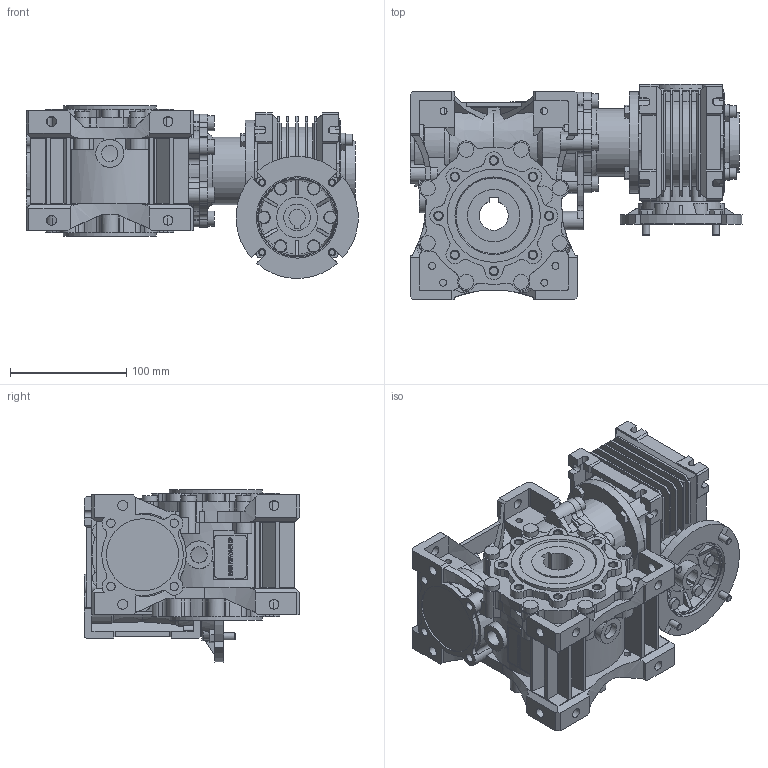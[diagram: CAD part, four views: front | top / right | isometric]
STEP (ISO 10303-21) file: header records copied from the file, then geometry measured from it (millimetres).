
FILE_DESCRIPTION(/* description */ ('STEP AP214'),/* implementation_level */ '2;1');
FILE_NAME(/* name */ 'NMRVP-NMRVP 040-063 100 (10x10) PS2 105x14 18 NO 25 NO NO - - NO - - - NO NO - --(--------)',/* time_stamp */ '2024-10-23T11:12:40+02:00',/* author */ ('License CC BY-ND 4.0'),/* organization */ ('CADENAS'),/* preprocessor_version */ 'ST-DEVELOPER v19.3',/* originating_system */ 'PARTsolutions',/* authorisation */ ' ');
FILE_SCHEMA (('AUTOMOTIVE_DESIGN {1 0 10303 214 3 1 1}'));
Products named in the file (11): NMRVP-NMRVP 040-063 100 (10x10) PS2 105x14 18 NO 25 NO NO - - NO - - 
- NO NO - --(--------); W.063.01.M; 063-25 (112); W.063.14.19.M-p; 040-063-TRA; W.040.01.M; 040-18 (78); VB 040-14 (14)-p; 4071 B14; Corona 40-p; 63-45
Assembly tree (10 placements, depth 2):
  NMRVP-NMRVP 040-063 100 (10x10) PS2 105x14 18 NO 25 NO NO - - NO - - 
- NO NO - --(--------)
    W.063.01.M
    063-25 (112)
    W.063.14.19.M-p
    040-063-TRA
    W.040.01.M
    040-18 (78)
    VB 040-14 (14)-p
    4071 B14
    Corona 40-p
    63-45
Bounding box: 285.33 x 185 x 148.33 mm (x, y, z)
Volume: 2669319.5 mm3; surface area: 482988.4 mm2
Topology: 10 solids, 14 shells, 2279 faces, 6203 edges, 4073 vertices
Faces by surface type: plane 1427, cylinder 728, cone 120, torus 4
Full cylindrical faces by diameter (mm): 4.917 x8, 5.55 x3, 6 x16, 6.647 x16, 7 x6, 7.26 x12, 7.8 x1, 8.5 x14, 10 x10, 10.8 x4, 11 x6, 13 x14, 14 x3, 16 x1, 23 x2, 24 x1, 25 x1, 27 x1, 28 x1, 30 x2, 35 x2, 36 x1, 37 x1, 40 x1, 44 x1, 45 x3, 47 x1, 58 x1, 60 x3, 62 x3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
Entity records: 87136 total; most frequent: CARTESIAN_POINT 13660, DIRECTION 12048, ORIENTED_EDGE 11918, EDGE_CURVE 5959, AXIS2_PLACEMENT_3D 4196, VERTEX_POINT 4026, LINE 3656, VECTOR 3656
